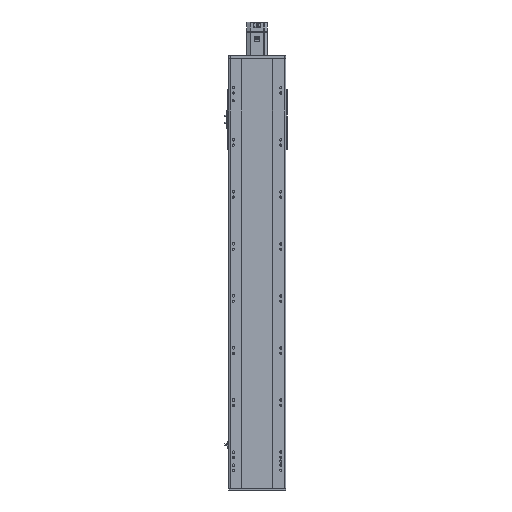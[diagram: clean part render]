
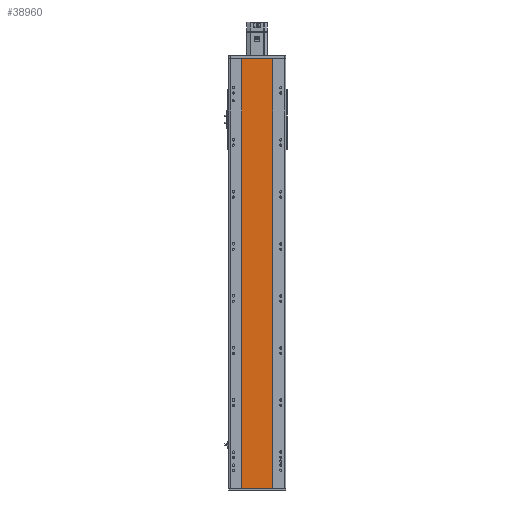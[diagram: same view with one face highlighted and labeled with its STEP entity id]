
A CAD part, front view. The second image highlights one B-rep face of the part: STEP entity #38960.
In plain terms, the highlighted planar face has unit normal (0, -1, 0).
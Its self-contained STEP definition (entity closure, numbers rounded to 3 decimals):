
#1275 = FACE_OUTER_BOUND ( 'NONE', #31142, .T. ) ;
#1704 = DIRECTION ( 'NONE',  ( 0., 0., -1. ) ) ;
#3250 = EDGE_CURVE ( 'NONE', #29426, #13649, #22237, .T. ) ;
#5233 = CARTESIAN_POINT ( 'NONE',  ( -59., 1., 825.5 ) ) ;
#5638 = CARTESIAN_POINT ( 'NONE',  ( -59., 1., 825.5 ) ) ;
#6704 = EDGE_CURVE ( 'NONE', #13649, #21812, #22547, .T. ) ;
#6979 = CARTESIAN_POINT ( 'NONE',  ( -59., 1., 825.5 ) ) ;
#8056 = ORIENTED_EDGE ( 'NONE', *, *, #6704, .F. ) ;
#9046 = VECTOR ( 'NONE', #19133, 1000. ) ;
#10263 = CARTESIAN_POINT ( 'NONE',  ( 59., 1., 825.5 ) ) ;
#11649 = CARTESIAN_POINT ( 'NONE',  ( -59., 1., -825.5 ) ) ;
#11658 = CARTESIAN_POINT ( 'NONE',  ( -59., 1., 825.5 ) ) ;
#11925 = DIRECTION ( 'NONE',  ( 1., 0., 0. ) ) ;
#12655 = VERTEX_POINT ( 'NONE', #22119 ) ;
#13649 = VERTEX_POINT ( 'NONE', #26841 ) ;
#14934 = CARTESIAN_POINT ( 'NONE',  ( 59., 1., -825.5 ) ) ;
#16059 = ORIENTED_EDGE ( 'NONE', *, *, #3250, .F. ) ;
#17449 = ORIENTED_EDGE ( 'NONE', *, *, #31050, .T. ) ;
#17592 = VECTOR ( 'NONE', #11925, 1000. ) ;
#18552 = AXIS2_PLACEMENT_3D ( 'NONE', #5638, #36545, #27204 ) ;
#19133 = DIRECTION ( 'NONE',  ( 1., 0., 0. ) ) ;
#21812 = VERTEX_POINT ( 'NONE', #14934 ) ;
#22119 = CARTESIAN_POINT ( 'NONE',  ( -59., 1., -825.5 ) ) ;
#22237 = LINE ( 'NONE', #6979, #9046 ) ;
#22547 = LINE ( 'NONE', #10263, #27464 ) ;
#23288 = VECTOR ( 'NONE', #1704, 1000. ) ;
#24042 = PLANE ( 'NONE',  #18552 ) ;
#26841 = CARTESIAN_POINT ( 'NONE',  ( 59., 1., 825.5 ) ) ;
#27204 = DIRECTION ( 'NONE',  ( -1., 0., 0. ) ) ;
#27464 = VECTOR ( 'NONE', #34783, 1000. ) ;
#28717 = EDGE_CURVE ( 'NONE', #12655, #21812, #34140, .T. ) ;
#29426 = VERTEX_POINT ( 'NONE', #11658 ) ;
#31050 = EDGE_CURVE ( 'NONE', #29426, #12655, #38345, .T. ) ;
#31142 = EDGE_LOOP ( 'NONE', ( #35064, #8056, #16059, #17449 ) ) ;
#34140 = LINE ( 'NONE', #11649, #17592 ) ;
#34783 = DIRECTION ( 'NONE',  ( 0., 0., -1. ) ) ;
#35064 = ORIENTED_EDGE ( 'NONE', *, *, #28717, .T. ) ;
#36545 = DIRECTION ( 'NONE',  ( 0., 1., 0. ) ) ;
#38345 = LINE ( 'NONE', #5233, #23288 ) ;
#38960 = ADVANCED_FACE ( 'NONE', ( #1275 ), #24042, .F. ) ;
